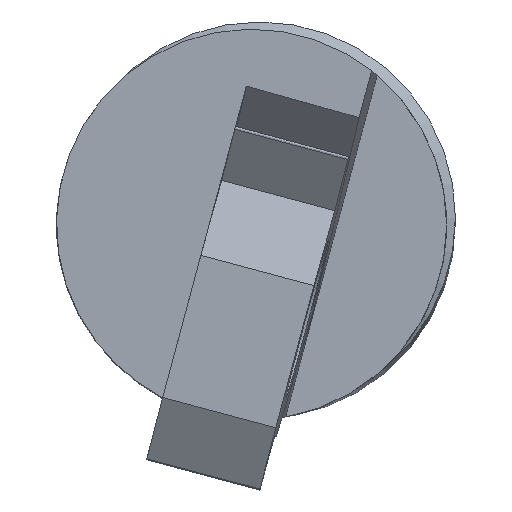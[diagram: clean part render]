
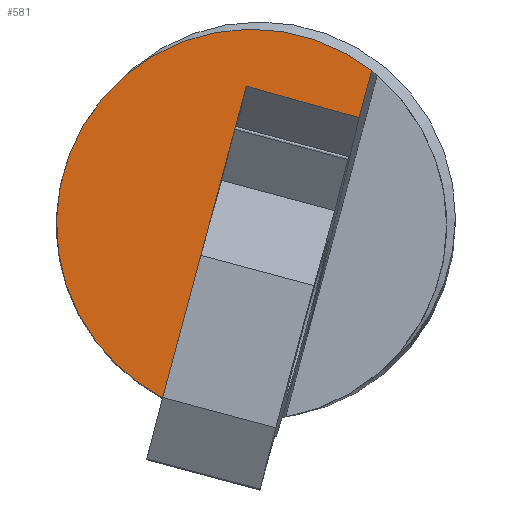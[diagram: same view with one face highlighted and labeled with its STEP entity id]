
A CAD part, top view. The second image highlights one B-rep face of the part: STEP entity #581.
In plain terms, the highlighted planar face has unit normal (0, 0, 1).
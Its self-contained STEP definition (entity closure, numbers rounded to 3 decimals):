
#4 = CARTESIAN_POINT ( 'NONE',  ( 0., 0., 0. ) ) ;
#19 = DIRECTION ( 'NONE',  ( 1., 0., 0. ) ) ;
#20 = VERTEX_POINT ( 'NONE', #1049 ) ;
#55 = AXIS2_PLACEMENT_3D ( 'NONE', #1134, #917, #381 ) ;
#59 = CIRCLE ( 'NONE', #128, 5.063 ) ;
#67 = EDGE_CURVE ( 'NONE', #769, #1103, #879, .T. ) ;
#84 = ORIENTED_EDGE ( 'NONE', *, *, #1170, .T. ) ;
#128 = AXIS2_PLACEMENT_3D ( 'NONE', #268, #389, #19 ) ;
#164 = ORIENTED_EDGE ( 'NONE', *, *, #428, .F. ) ;
#193 = CARTESIAN_POINT ( 'NONE',  ( -2.518, -4.72, 0. ) ) ;
#229 = CARTESIAN_POINT ( 'NONE',  ( -4.696, -2.564, 0. ) ) ;
#268 = CARTESIAN_POINT ( 'NONE',  ( -0.211, -0.213, 0. ) ) ;
#274 = FACE_OUTER_BOUND ( 'NONE', #1156, .T. ) ;
#298 = CARTESIAN_POINT ( 'NONE',  ( -1.169, 0.313, 0. ) ) ;
#379 = EDGE_CURVE ( 'NONE', #20, #424, #860, .T. ) ;
#380 = VECTOR ( 'NONE', #1283, 1000. ) ;
#381 = DIRECTION ( 'NONE',  ( 1., 0., 0. ) ) ;
#389 = DIRECTION ( 'NONE',  ( 0., 0., 1. ) ) ;
#424 = VERTEX_POINT ( 'NONE', #847 ) ;
#428 = EDGE_CURVE ( 'NONE', #424, #1103, #726, .T. ) ;
#446 = DIRECTION ( 'NONE',  ( 1., 0., 0. ) ) ;
#470 = VERTEX_POINT ( 'NONE', #229 ) ;
#502 = ORIENTED_EDGE ( 'NONE', *, *, #379, .F. ) ;
#551 = ORIENTED_EDGE ( 'NONE', *, *, #932, .T. ) ;
#581 = ADVANCED_FACE ( 'NONE', ( #274 ), #1330, .T. ) ;
#602 = CARTESIAN_POINT ( 'NONE',  ( -0.35, 3.371, 0. ) ) ;
#643 = AXIS2_PLACEMENT_3D ( 'NONE', #4, #656, #446 ) ;
#644 = CARTESIAN_POINT ( 'NONE',  ( 0.846, 3.038, 0. ) ) ;
#656 = DIRECTION ( 'NONE',  ( 0., 0., 1. ) ) ;
#726 = LINE ( 'NONE', #644, #1024 ) ;
#749 = DIRECTION ( 'NONE',  ( -0.259, -0.966, 0. ) ) ;
#769 = VERTEX_POINT ( 'NONE', #193 ) ;
#847 = CARTESIAN_POINT ( 'NONE',  ( 2.579, 2.556, 0. ) ) ;
#860 = LINE ( 'NONE', #1310, #1153 ) ;
#879 = LINE ( 'NONE', #298, #380 ) ;
#917 = DIRECTION ( 'NONE',  ( 0., 0., 1. ) ) ;
#932 = EDGE_CURVE ( 'NONE', #470, #769, #1068, .T. ) ;
#1024 = VECTOR ( 'NONE', #1423, 1000. ) ;
#1049 = CARTESIAN_POINT ( 'NONE',  ( 2.906, 3.776, 0. ) ) ;
#1055 = ORIENTED_EDGE ( 'NONE', *, *, #67, .T. ) ;
#1068 = CIRCLE ( 'NONE', #55, 5.35 ) ;
#1103 = VERTEX_POINT ( 'NONE', #602 ) ;
#1134 = CARTESIAN_POINT ( 'NONE',  ( 0., 0., 0. ) ) ;
#1153 = VECTOR ( 'NONE', #749, 1000. ) ;
#1156 = EDGE_LOOP ( 'NONE', ( #502, #84, #551, #1055, #164 ) ) ;
#1170 = EDGE_CURVE ( 'NONE', #20, #470, #59, .T. ) ;
#1283 = DIRECTION ( 'NONE',  ( 0.259, 0.966, 0. ) ) ;
#1310 = CARTESIAN_POINT ( 'NONE',  ( 0.118, -6.632, 0. ) ) ;
#1330 = PLANE ( 'NONE',  #643 ) ;
#1423 = DIRECTION ( 'NONE',  ( -0.963, 0.268, 0. ) ) ;
